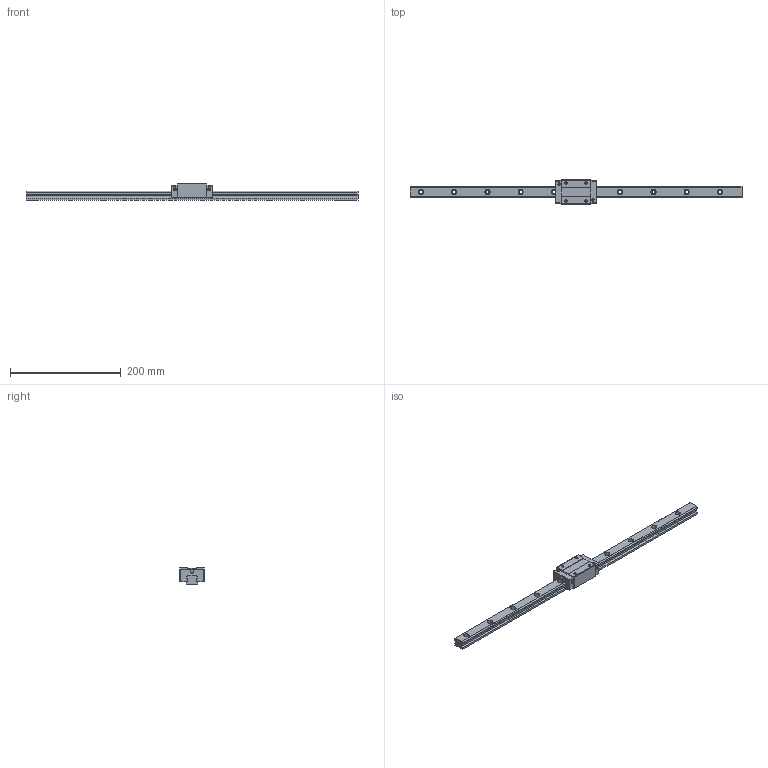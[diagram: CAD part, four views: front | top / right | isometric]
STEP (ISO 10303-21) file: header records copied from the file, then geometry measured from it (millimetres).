
FILE_DESCRIPTION (( 'STEP AP203' ), '1' );
FILE_NAME ('TRH20VN-XNC.STEP', '2026-02-12T07:32:28', ( '' ), ( '' ), 'SwSTEP 2.0', 'SolidWorks 2022', '' );
FILE_SCHEMA (( 'CONFIG_CONTROL_DESIGN' ));
Length unit declared in the file: millimetre
Products named in the file (1): TRH20VN-XNC
Bounding box: 600 x 44 x 30 mm (x, y, z)
Volume: 230607.1 mm3; surface area: 63556.4 mm2
Topology: 1 solids, 1 shells, 338 faces, 894 edges, 586 vertices
Faces by surface type: plane 136, cylinder 96, bspline 90, cone 16
Entity records: 16997 total; most frequent: CARTESIAN_POINT 8957, ORIENTED_EDGE 1772, DIRECTION 1406, EDGE_CURVE 886, VERTEX_POINT 586, LINE 504, VECTOR 504, AXIS2_PLACEMENT_3D 451
